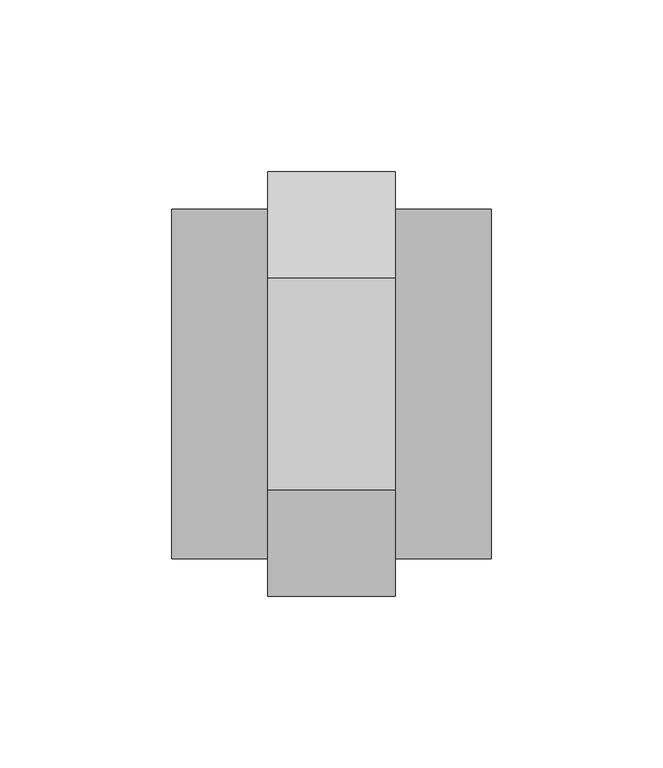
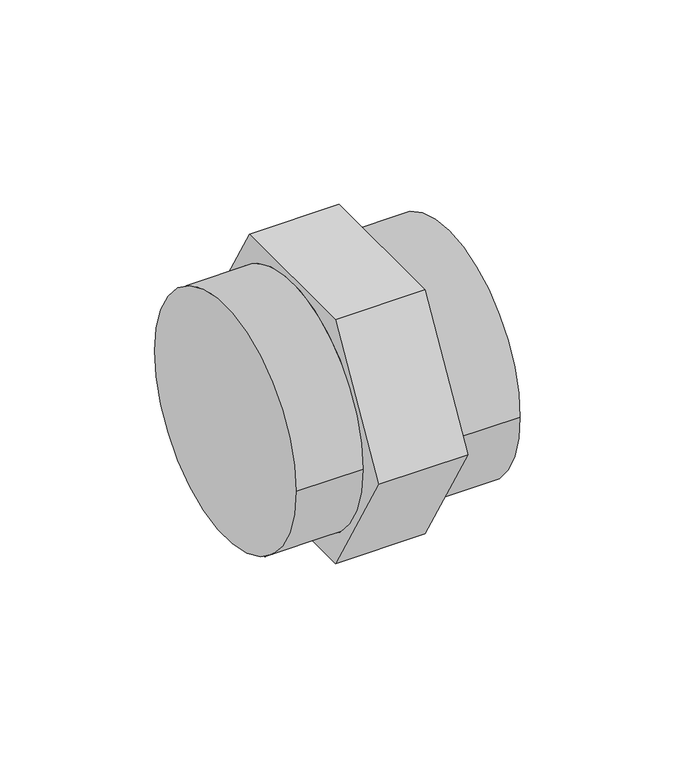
"""IFC4 building model written with IfcOpenShell, lengths in millimetres: pipe fitting geometry, 01101007 : Manguitos H/H."""

from ifc_helpers import new_model, si_unit, frame, origin, place, context, project, spatial, circle_curve, source, transform, mapped, element, save
from ifc_brep_helpers import plane_surface, cylinder_surface, advanced_brep


def pipe_fitting_f5d61764(model_context):
    return source(origin(), model_context, "Body", "AdvancedBrep", [
        advanced_brep(
        [(18.6, -30.8882394, 53.5), (18.6, -61.7764788, 0.0), (18.6, -30.8882394, -53.5), (18.6, 30.8882394, -53.5), (18.6, 61.7764788, 0.0), (18.6, 30.8882394, 53.5), (18.6, -50.825, 0.0), (18.6, 50.825, 0.0), (-18.6, -30.8882394, 53.5), (-18.6, 30.8882394, 53.5), (-18.6, 61.7764788, 0.0), (-18.6, 30.8882394, -53.5), (-18.6, -30.8882394, -53.5), (-18.6, -61.7764788, 0.0), (-18.6, 50.825, 0.0), (-18.6, -50.825, 0.0), (-46.5, -50.825, 0.0), (-46.5, 50.825, 0.0), (46.5, -50.825, 0.0), (46.5, 50.825, 0.0)],
        [
            (0, 1),
            (1, 2),
            (2, 3),
            (3, 4),
            (4, 5),
            (5, 0),
            (6, 7, circle_curve(frame((18.6, 0.0, 0.0), z_axis=(-1.0, 0.0, 0.0), x_axis=(0.0, 1.0, 0.0)), 50.825)),
            (7, 6, circle_curve(frame((18.6, 0.0, 0.0), z_axis=(-1.0, 0.0, 0.0), x_axis=(0.0, 1.0, 0.0)), 50.825)),
            (8, 9),
            (9, 10),
            (10, 11),
            (11, 12),
            (12, 13),
            (13, 8),
            (14, 15, circle_curve(frame((-18.6, 0.0, 0.0), z_axis=(1.0, 0.0, 0.0), x_axis=(0.0, 1.0, 0.0)), 50.825)),
            (15, 14, circle_curve(frame((-18.6, 0.0, 0.0), z_axis=(1.0, 0.0, 0.0), x_axis=(0.0, 1.0, 0.0)), 50.825)),
            (0, 8),
            (13, 1),
            (12, 2),
            (11, 3),
            (10, 4),
            (9, 5),
            (16, 17, circle_curve(frame((-46.5, 0.0, 0.0), z_axis=(-1.0, 0.0, 0.0), x_axis=(0.0, 1.0, 0.0)), 50.825)),
            (17, 16, circle_curve(frame((-46.5, 0.0, 0.0), z_axis=(-1.0, 0.0, 0.0), x_axis=(0.0, 1.0, 0.0)), 50.825)),
            (18, 19, circle_curve(frame((46.5, 0.0, 0.0), z_axis=(1.0, 0.0, 0.0), x_axis=(0.0, 1.0, 0.0)), 50.825)),
            (19, 18, circle_curve(frame((46.5, 0.0, 0.0), z_axis=(1.0, 0.0, 0.0), x_axis=(0.0, 1.0, 0.0)), 50.825)),
            (16, 15),
            (14, 17),
            (19, 7),
            (6, 18),
        ],
        [
            plane_surface(frame((18.6, -30.8882394, 53.5), z_axis=(1.0, 0.0, 0.0), x_axis=(0.0, -0.5000000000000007, -0.8660254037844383))),
            plane_surface(frame((-18.6, -30.8882394, 53.5), z_axis=(-1.0, 0.0, 0.0), x_axis=(0.0, 0.5000000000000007, 0.8660254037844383))),
            plane_surface(frame((18.6, -30.8882394, 53.5), z_axis=(0.0, -0.8660254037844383, 0.5000000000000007), x_axis=(-1.0, 0.0, 0.0))),
            plane_surface(frame((18.6, -61.7764788, 0.0), z_axis=(0.0, -0.8660254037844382, -0.5000000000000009), x_axis=(-1.0, 0.0, 0.0))),
            plane_surface(frame((18.6, -30.8882394, -53.5), z_axis=(0.0, 0.0, -1.0), x_axis=(-1.0, 0.0, 0.0))),
            plane_surface(frame((18.6, 30.8882394, -53.5), z_axis=(0.0, 0.8660254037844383, -0.5000000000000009), x_axis=(-1.0, 0.0, 0.0))),
            plane_surface(frame((18.6, 61.7764788, 0.0), z_axis=(0.0, 0.8660254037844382, 0.500000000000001), x_axis=(-1.0, 0.0, 0.0))),
            plane_surface(frame((18.6, 30.8882394, 53.5), z_axis=(0.0, 0.0, 1.0), x_axis=(-1.0, 0.0, 0.0))),
            plane_surface(frame((-46.5, 0.0, 0.0), z_axis=(-1.0, 0.0, 0.0), x_axis=(0.0, 0.0, 1.0))),
            plane_surface(frame((46.5, 0.0, 0.0), z_axis=(1.0, 0.0, 0.0), x_axis=(0.0, 0.0, 1.0))),
            cylinder_surface(frame((-46.5, 0.0, 0.0), z_axis=(-1.0, 0.0, 0.0), x_axis=(0.0, 1.0, 0.0)), 50.825),
        ],
        [
            (0, [[1, 2, 3, 4, 5, 6], [7, 8]]),
            (1, [[9, 10, 11, 12, 13, 14], [15, 16]]),
            (2, [[-1, 17, -14, 18]]),
            (3, [[-2, -18, -13, 19]]),
            (4, [[-3, -19, -12, 20]]),
            (5, [[-4, -20, -11, 21]]),
            (6, [[-5, -21, -10, 22]]),
            (7, [[-6, -22, -9, -17]]),
            (8, [[23, 24]]),
            (9, [[25, 26]]),
            (10, [[-23, 27, -15, 28]]),
            (10, [[-26, 29, -7, 30]]),
            (10, [[-24, -28, -16, -27]]),
            (10, [[-25, -30, -8, -29]]),
        ],
    ),
    ])


if __name__ == "__main__":
    model = new_model("IFC4")
    model_context = context("Model", 3, world=origin())
    ifc_project = project(units=[si_unit("LENGTHUNIT", "METRE", prefix="MILLI")], contexts=[model_context])
    site = spatial("IfcSite", under=ifc_project)
    building = spatial("IfcBuilding", under=site)
    placement = place(None, origin())
    pipe_fitting_shape = pipe_fitting_f5d61764(model_context)
    element("IfcPipeFitting", 1, ObjectType="01101007 : Manguitos H/H", at=placement, inside=building, context=model_context, shape_type="MappedRepresentation", body=[
        mapped(pipe_fitting_shape, transform((0.0, 0.0, 0.0), x_axis=(1.0, 0.0, 0.0), y_axis=(0.0, 1.0, 0.0), z_axis=(0.0, 0.0, 1.0))),
    ])
    save(model, "model.ifc")
